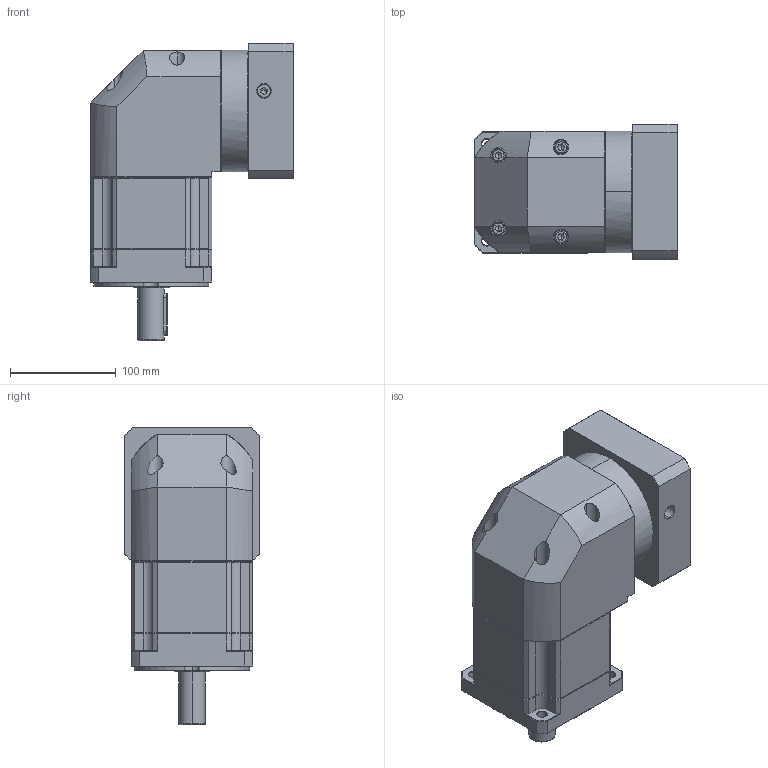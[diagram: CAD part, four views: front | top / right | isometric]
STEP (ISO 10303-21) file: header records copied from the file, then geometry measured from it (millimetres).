
FILE_DESCRIPTION (( 'STEP AP214' ), '1' );
FILE_NAME ('ZBR115A-D25-L2-P2-22-110-145-M8.step', '2023-08-26T12:32:52', ( '' ), ( '' ), 'SwSTEP 2.0', 'SolidWorks 2016', '' );
FILE_SCHEMA (( 'AUTOMOTIVE_DESIGN' ));
Length unit declared in the file: millimetre
Products named in the file (1): ZBR115A-D25-L2-P2-22-110-145-M8
Bounding box: 192.4 x 128 x 281.5 mm (x, y, z)
Volume: 3369992.3 mm3; surface area: 265989.5 mm2
Topology: 6 solids, 6 shells, 2380 faces, 6233 edges, 3957 vertices
Faces by surface type: plane 1139, cylinder 439, bspline 425, cone 369, torus 8
Entity records: 128037 total; most frequent: CARTESIAN_POINT 46915, ORIENTED_EDGE 12406, DIRECTION 9780, EDGE_CURVE 6203, VECTOR 3990, LINE 3990, VERTEX_POINT 3957, AXIS2_PLACEMENT_3D 2895
